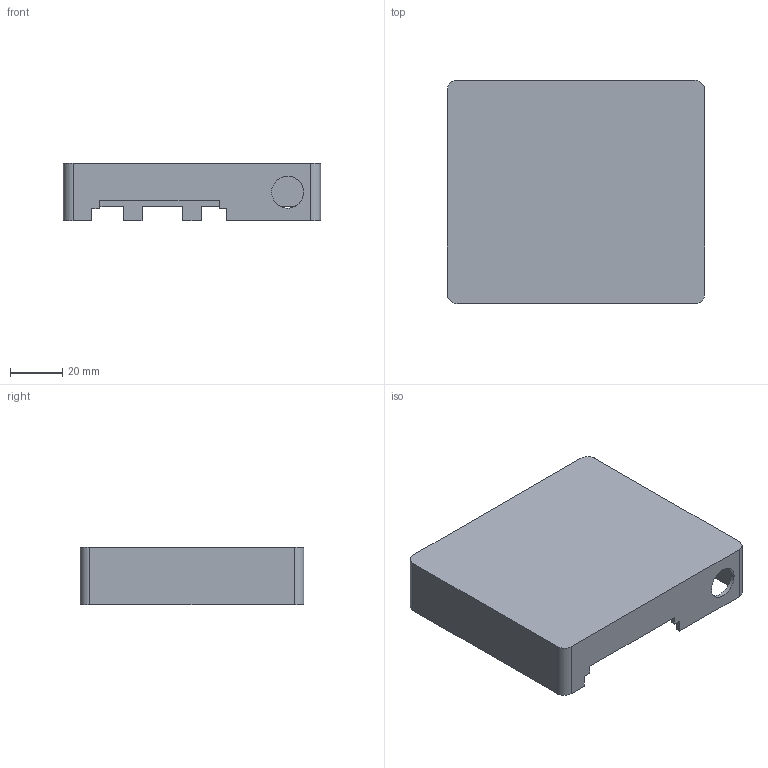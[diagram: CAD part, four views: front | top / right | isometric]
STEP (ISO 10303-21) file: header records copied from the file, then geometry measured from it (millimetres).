
FILE_DESCRIPTION(('Designed by EasyEDA Pro'),'2;1');
FILE_NAME('Open CASCADE Shape Model','2023-03-24T09:59:43',('Author'),( 'Open CASCADE'),'Open CASCADE STEP processor 7.7','Open CASCADE 7.7' ,'Unknown');
FILE_SCHEMA(('AUTOMOTIVE_DESIGN { 1 0 10303 214 1 1 1 1 }'));
Length unit declared in the file: millimetre
Products named in the file (1): SOLID
Bounding box: 98.02 x 85.32 x 22 mm (x, y, z)
Volume: 22211.8 mm3; surface area: 30301.3 mm2
Topology: 1 solids, 1 shells, 43 faces, 128 edges, 87 vertices
Faces by surface type: plane 24, bspline 14, cylinder 5
Full cylindrical faces by diameter (mm): 12.2 x1
Entity records: 3602 total; most frequent: CARTESIAN_POINT 1620, B_SPLINE_CURVE_WITH_KNOTS 257, ORIENTED_EDGE 256, PCURVE 256, DEFINITIONAL_REPRESENTATION 256, DIRECTION 176, EDGE_CURVE 128, SURFACE_CURVE 127
